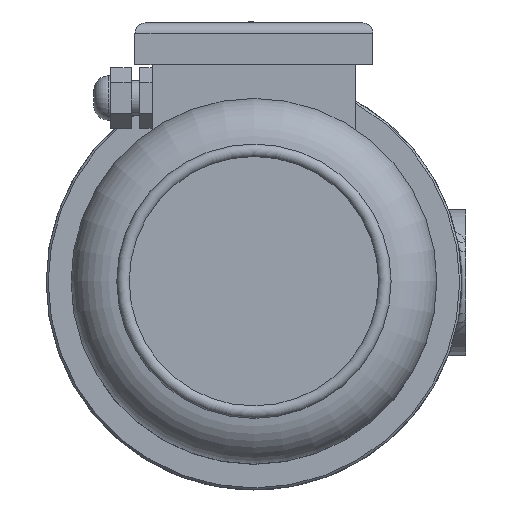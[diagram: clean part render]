
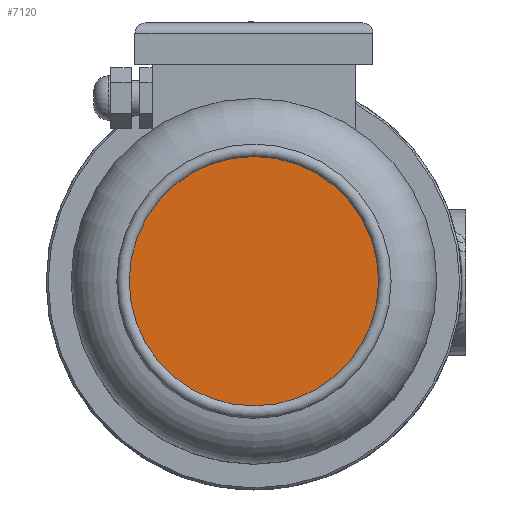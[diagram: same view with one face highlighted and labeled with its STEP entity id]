
A CAD part, top view. The second image highlights one B-rep face of the part: STEP entity #7120.
In plain terms, the highlighted planar face has unit normal (0, 0, 1).
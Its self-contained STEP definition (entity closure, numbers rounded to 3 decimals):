
#378=PLANE('',#7857);
#894=CIRCLE('',#7856,60.);
#2060=ORIENTED_EDGE('',*,*,#3768,.F.);
#3768=EDGE_CURVE('',#4687,#4687,#894,.T.);
#4687=VERTEX_POINT('',#12524);
#6094=EDGE_LOOP('',(#2060));
#6614=FACE_BOUND('',#6094,.T.);
#7120=ADVANCED_FACE('',(#6614),#378,.T.);
#7856=AXIS2_PLACEMENT_3D('',#12523,#9338,#9339);
#7857=AXIS2_PLACEMENT_3D('',#12525,#9340,#9341);
#9338=DIRECTION('',(0.,0.,-1.));
#9339=DIRECTION('',(-1.,0.,0.));
#9340=DIRECTION('',(0.,0.,1.));
#9341=DIRECTION('',(1.,0.,0.));
#12523=CARTESIAN_POINT('',(0.,0.,597.584));
#12524=CARTESIAN_POINT('',(-60.,0.,597.584));
#12525=CARTESIAN_POINT('',(-60.,0.,597.584));
